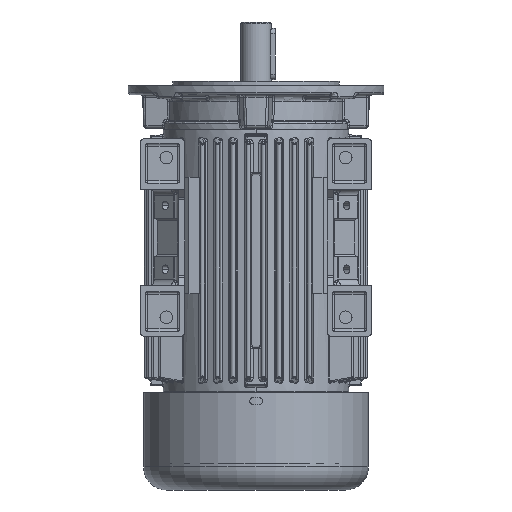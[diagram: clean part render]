
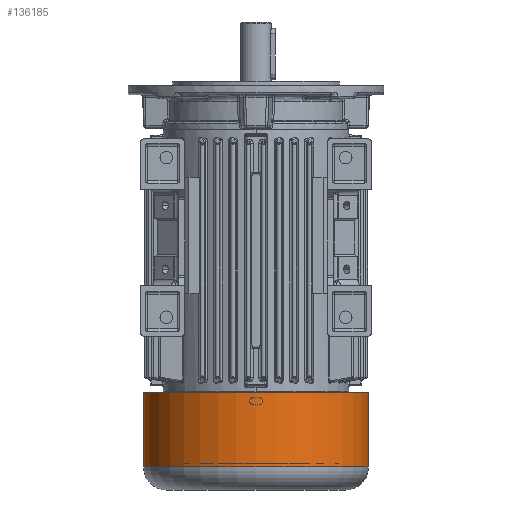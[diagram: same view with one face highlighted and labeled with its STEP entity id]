
A CAD part, front view. The second image highlights one B-rep face of the part: STEP entity #136185.
In plain terms, the highlighted cylindrical face has radius 88 mm (diameter 176 mm), a partial arc.
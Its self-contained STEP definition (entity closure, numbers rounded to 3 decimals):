
#161 = CARTESIAN_POINT ( 'NONE',  ( -88., 0., -161.5 ) ) ;
#1703 = VECTOR ( 'NONE', #51304, 1000. ) ;
#1797 = CIRCLE ( 'NONE', #75102, 88. ) ;
#5470 = DIRECTION ( 'NONE',  ( -1., 0., 0. ) ) ;
#5810 = VERTEX_POINT ( 'NONE', #53103 ) ;
#7557 = LINE ( 'NONE', #137397, #1703 ) ;
#7764 = EDGE_CURVE ( 'NONE', #5810, #37504, #21742, .T. ) ;
#12192 = FACE_OUTER_BOUND ( 'NONE', #59360, .T. ) ;
#19764 = DIRECTION ( 'NONE',  ( 0., 0., -1. ) ) ;
#20467 = DIRECTION ( 'NONE',  ( -1., 0., 0. ) ) ;
#21742 = CIRCLE ( 'NONE', #49296, 88. ) ;
#37504 = VERTEX_POINT ( 'NONE', #161 ) ;
#41299 = CARTESIAN_POINT ( 'NONE',  ( 0., 0., -103.5 ) ) ;
#46604 = VERTEX_POINT ( 'NONE', #76760 ) ;
#49296 = AXIS2_PLACEMENT_3D ( 'NONE', #90062, #82147, #5470 ) ;
#51304 = DIRECTION ( 'NONE',  ( 0., 0., -1. ) ) ;
#53103 = CARTESIAN_POINT ( 'NONE',  ( 88., 0., -161.5 ) ) ;
#55931 = DIRECTION ( 'NONE',  ( 0., 0., -1. ) ) ;
#59360 = EDGE_LOOP ( 'NONE', ( #74660, #134015, #100075, #133753 ) ) ;
#74383 = VERTEX_POINT ( 'NONE', #136879 ) ;
#74394 = VECTOR ( 'NONE', #99020, 1000. ) ;
#74660 = ORIENTED_EDGE ( 'NONE', *, *, #95837, .F. ) ;
#75102 = AXIS2_PLACEMENT_3D ( 'NONE', #41299, #19764, #20467 ) ;
#76760 = CARTESIAN_POINT ( 'NONE',  ( 88., 0., -103.5 ) ) ;
#80212 = EDGE_CURVE ( 'NONE', #74383, #37504, #7557, .T. ) ;
#81174 = EDGE_CURVE ( 'NONE', #46604, #74383, #1797, .T. ) ;
#82147 = DIRECTION ( 'NONE',  ( 0., 0., -1. ) ) ;
#87560 = LINE ( 'NONE', #107677, #74394 ) ;
#90062 = CARTESIAN_POINT ( 'NONE',  ( 0., 0., -161.5 ) ) ;
#95837 = EDGE_CURVE ( 'NONE', #46604, #5810, #87560, .T. ) ;
#99020 = DIRECTION ( 'NONE',  ( 0., 0., -1. ) ) ;
#100075 = ORIENTED_EDGE ( 'NONE', *, *, #80212, .T. ) ;
#106144 = AXIS2_PLACEMENT_3D ( 'NONE', #108998, #55931, #118341 ) ;
#107677 = CARTESIAN_POINT ( 'NONE',  ( 88., 0., -208.308 ) ) ;
#108998 = CARTESIAN_POINT ( 'NONE',  ( 0., 0., -208.308 ) ) ;
#118341 = DIRECTION ( 'NONE',  ( -1., 0., 0. ) ) ;
#119762 = CYLINDRICAL_SURFACE ( 'NONE', #106144, 88. ) ;
#133753 = ORIENTED_EDGE ( 'NONE', *, *, #7764, .F. ) ;
#134015 = ORIENTED_EDGE ( 'NONE', *, *, #81174, .T. ) ;
#136185 = ADVANCED_FACE ( 'NONE', ( #12192 ), #119762, .T. ) ;
#136879 = CARTESIAN_POINT ( 'NONE',  ( -88., 0., -103.5 ) ) ;
#137397 = CARTESIAN_POINT ( 'NONE',  ( -88., 0., -208.308 ) ) ;
